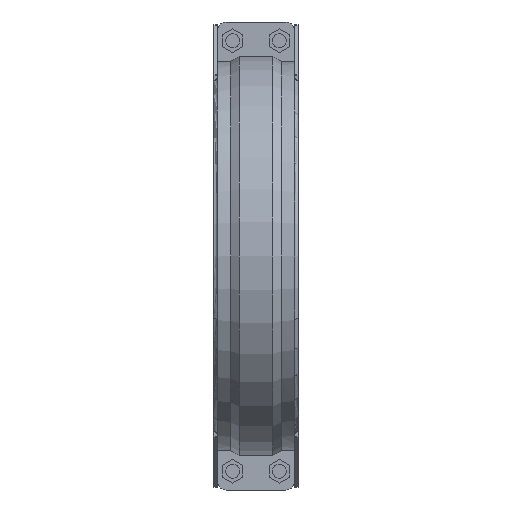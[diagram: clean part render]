
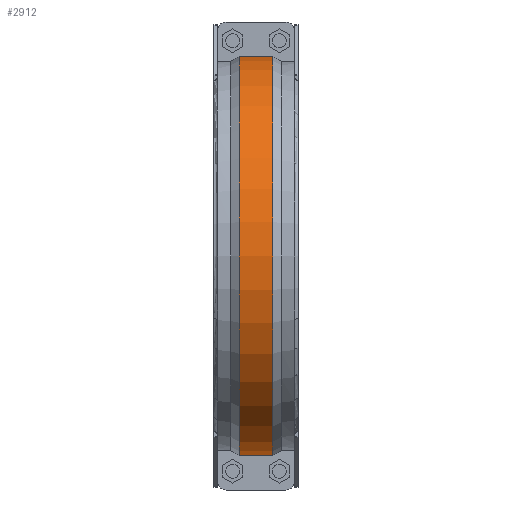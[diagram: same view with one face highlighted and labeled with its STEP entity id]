
A CAD part, front view. The second image highlights one B-rep face of the part: STEP entity #2912.
In plain terms, the highlighted cylindrical face has radius 270.759 mm (diameter 541.518 mm), a partial arc.
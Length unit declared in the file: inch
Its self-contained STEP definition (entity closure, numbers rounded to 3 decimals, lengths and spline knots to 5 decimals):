
#333=FACE_OUTER_BOUND('',#503,.T.);
#503=EDGE_LOOP('',(#2474,#2475,#2476,#2477));
#619=LINE('',#4387,#882);
#776=LINE('',#4917,#1039);
#882=VECTOR('',#3487,0.3937);
#1039=VECTOR('',#3916,0.3937);
#1101=CIRCLE('',#3077,10.65981);
#1135=CIRCLE('',#3174,10.65981);
#1249=VERTEX_POINT('',#4382);
#1250=VERTEX_POINT('',#4386);
#1295=VERTEX_POINT('',#4601);
#1394=VERTEX_POINT('',#4913);
#1550=EDGE_CURVE('',#1250,#1249,#619,.T.);
#1620=EDGE_CURVE('',#1295,#1249,#1101,.T.);
#1772=EDGE_CURVE('',#1295,#1394,#776,.T.);
#1779=EDGE_CURVE('',#1394,#1250,#1135,.T.);
#2474=ORIENTED_EDGE('',*,*,#1550,.T.);
#2475=ORIENTED_EDGE('',*,*,#1620,.F.);
#2476=ORIENTED_EDGE('',*,*,#1772,.T.);
#2477=ORIENTED_EDGE('',*,*,#1779,.T.);
#2616=CYLINDRICAL_SURFACE('',#3173,10.65981);
#2912=ADVANCED_FACE('',(#333),#2616,.T.);
#3077=AXIS2_PLACEMENT_3D('',#4605,#3619,#3620);
#3173=AXIS2_PLACEMENT_3D('',#4931,#3935,#3936);
#3174=AXIS2_PLACEMENT_3D('',#4932,#3937,#3938);
#3487=DIRECTION('',(1.,0.,0.));
#3619=DIRECTION('center_axis',(1.,0.,0.));
#3620=DIRECTION('ref_axis',(0.,0.,-1.));
#3916=DIRECTION('',(-1.,0.,0.));
#3935=DIRECTION('center_axis',(1.,0.,0.));
#3936=DIRECTION('ref_axis',(0.,-1.,0.));
#3937=DIRECTION('center_axis',(1.,0.,0.));
#3938=DIRECTION('ref_axis',(0.,0.,-1.));
#4382=CARTESIAN_POINT('',(0.9,-0.375,-10.65321));
#4386=CARTESIAN_POINT('',(-0.9,-0.375,-10.65321));
#4387=CARTESIAN_POINT('',(0.45,-0.375,-10.65321));
#4601=CARTESIAN_POINT('',(0.9,-0.375,10.65321));
#4605=CARTESIAN_POINT('Origin',(0.9,0.,0.));
#4913=CARTESIAN_POINT('',(-0.9,-0.375,10.65321));
#4917=CARTESIAN_POINT('',(0.45,-0.375,10.65321));
#4931=CARTESIAN_POINT('Origin',(0.45,0.,0.));
#4932=CARTESIAN_POINT('Origin',(-0.9,0.,0.));
